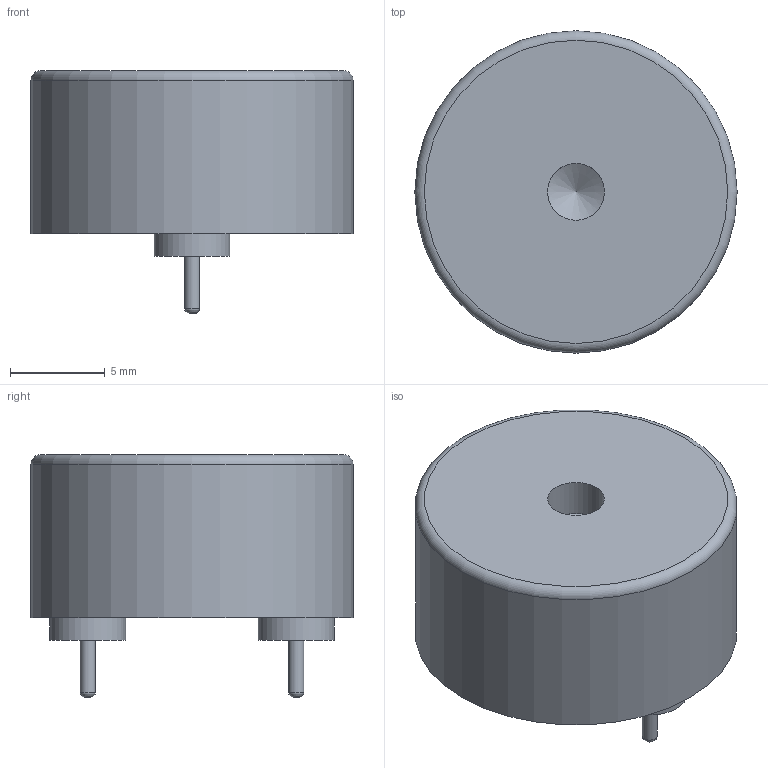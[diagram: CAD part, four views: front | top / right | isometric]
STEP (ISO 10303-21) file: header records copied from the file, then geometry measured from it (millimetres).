
FILE_DESCRIPTION(/* description */ (''),/* implementation_level */ '2;1');
FILE_NAME(/* name */ 'C:/Users/nmtel/OneDrive/Desktop/TP172009-1.step',/* time_stamp */ '2021-01-12T04:08:15+02:00',/* author */ (''),/* organization */ (''),/* preprocessor_version */ 'ST-DEVELOPER v18.1',/* originating_system */ 'Autodesk Translation Framework v9.7.1.1290',/* authorisation */ '');
FILE_SCHEMA (('AUTOMOTIVE_DESIGN { 1 0 10303 214 3 1 1 }'));
Length unit declared in the file: millimetre
Products named in the file (1): TP172009-1
Bounding box: 17 x 17 x 12.8 mm (x, y, z)
Volume: 1966.1 mm3; surface area: 968.4 mm2
Topology: 3 solids, 3 shells, 18 faces, 28 edges, 18 vertices
Faces by surface type: plane 8, cylinder 6, bspline 2, torus 1, cone 1
Full cylindrical faces by diameter (mm): 0.8 x2, 3 x1, 4 x2, 17 x1
Entity records: 500 total; most frequent: CARTESIAN_POINT 116, DIRECTION 81, ORIENTED_EDGE 54, AXIS2_PLACEMENT_3D 37, EDGE_CURVE 27, EDGE_LOOP 21, CIRCLE 20, FACE_OUTER_BOUND 18
